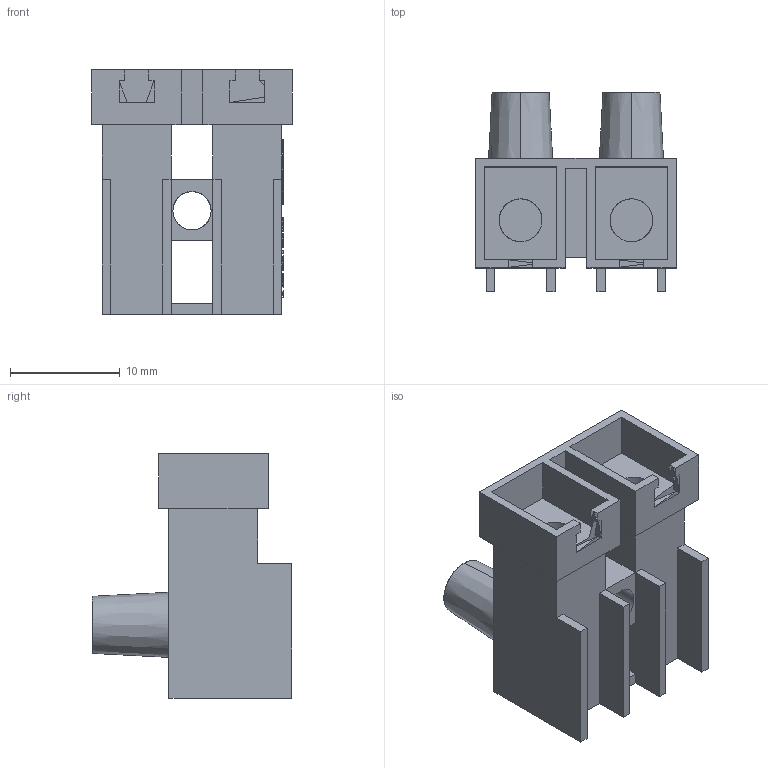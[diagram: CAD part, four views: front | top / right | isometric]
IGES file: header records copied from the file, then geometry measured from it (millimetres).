
Global section: file name: C:\Programme\core_technologie\in\007YR0BY01.igs; native system: CT CoreTechnologie 3D Evolution; preprocessor: 2006; author: assmuth; date: 100304.150450; units: millimetre
Bounding box: 18.3 x 18.2 x 22.3 mm (x, y, z)
Surface area: 2819.2 mm2 (no closed solid volume)
Topology: 0 solids, 0 shells, 217 faces, 1014 edges, 989 vertices
Faces by surface type: bspline 217
